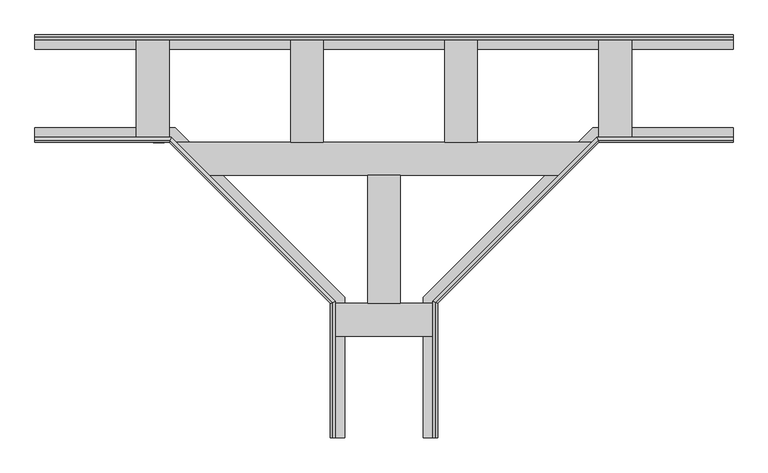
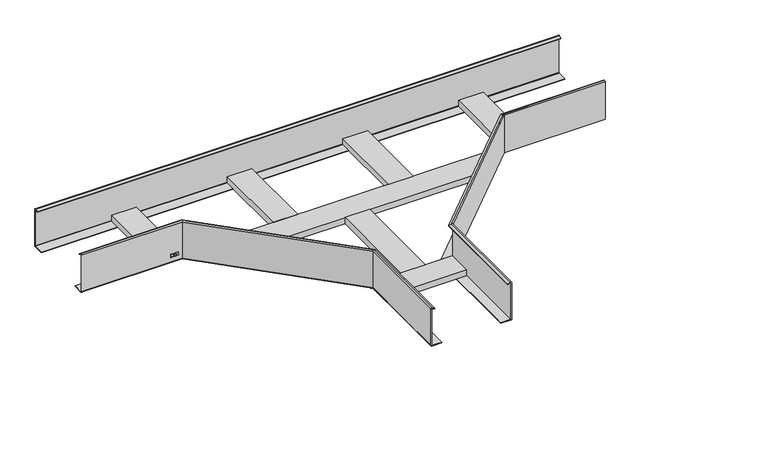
"""IFC4 building model written with IfcOpenShell, lengths in millimetres: cable carrier fitting geometry, КМ Профиль L Т-отвод : Т-отвод."""

from ifc_helpers import new_model, si_unit, point, frame, frame_2d, origin, place, context, project, spatial, polyline, circle_curve, ellipse_curve, trimmed, segment, composite_curve, outline, extrude, source, transform, mapped, element, save
from ifc_brep_helpers import plane_surface, cylinder_surface, revolved_surface, advanced_brep


def cable_carrier_fitting_7de7f101(model_context):
    return source(origin(), model_context, "Body", "SolidModel", [
        extrude(outline(polyline([(-26.986157, -429.2388781), (-34.737421, -429.2388781), (-34.737421, -425.6630512), (-31.5720802, -425.6630512), (-34.737421, -423.9588467), (-34.737421, -420.0604353), (-31.194034, -421.9277444), (-30.5086619, -424.1694955), (-26.986157, -421.703011), (-26.986157, -423.8289757), (-30.564509, -425.7316192), (-26.986157, -425.7316192), (-26.986157, -429.2388781)])), frame((0.0, -100.8, 0.0), z_axis=(0.0, 1.0, 0.0), x_axis=(0.0, 0.0, 1.0)), (0.0, 0.0, 1.0), 0.8),
        extrude(outline(polyline([(-34.737421, -417.9962759), (-30.0696135, -417.6126012), (-34.7434681, -416.2045824), (-34.7434681, -414.7300717), (-30.0541919, -413.2500032), (-34.7429915, -412.7725105), (-34.7429915, -408.8700699), (-26.9623682, -410.0615674), (-26.9623682, -413.2555223), (-30.0390232, -414.2768297), (-26.9647569, -415.0433304), (-26.9647569, -418.0740589), (-34.737421, -419.8943395), (-34.737421, -417.9962759)])), frame((0.0, -100.8, 0.0), z_axis=(0.0, 1.0, 0.0), x_axis=(0.0, 0.0, 1.0)), (0.0, 0.0, 1.0), 0.8),
        extrude(outline(polyline([(-400.0, -97.0), (-461.0, -97.0), (-461.0, 97.0), (-400.0, 97.0), (-400.0, -97.0)])), frame((0.0, 0.0, -48.5), z_axis=(0.0, 0.0, 1.0), x_axis=(1.0, 0.0, 0.0)), (0.0, 0.0, 1.0), 16.0),
        extrude(outline(polyline([(461.0, -97.0), (400.0, -97.0), (400.0, 97.0), (461.0, 97.0), (461.0, -97.0)])), frame((0.0, 0.0, -48.5), z_axis=(0.0, 0.0, 1.0), x_axis=(1.0, 0.0, 0.0)), (0.0, 0.0, 1.0), 16.0),
        extrude(outline(polyline([(-113.0, 97.0), (-113.0, -100.0), (-174.0, -100.0), (-174.0, 97.0), (-113.0, 97.0)])), frame((0.0, 0.0, -48.5), z_axis=(0.0, 0.0, 1.0), x_axis=(1.0, 0.0, 0.0)), (0.0, 0.0, 1.0), 16.0),
        extrude(outline(polyline([(113.0, -100.0), (113.0, 97.0), (174.0, 97.0), (174.0, -100.0), (113.0, -100.0)])), frame((0.0, 0.0, -48.5), z_axis=(0.0, 0.0, 1.0), x_axis=(1.0, 0.0, 0.0)), (0.0, 0.0, 1.0), 16.0),
        extrude(outline(polyline([(30.5, -161.0), (30.5, -400.0), (-30.5, -400.0), (-30.5, -161.0), (30.5, -161.0)])), frame((0.0, 0.0, -48.5), z_axis=(0.0, 0.0, 1.0), x_axis=(1.0, 0.0, 0.0)), (0.0, 0.0, 1.0), 16.0),
        extrude(outline(polyline([(-97.0, -400.0), (97.0, -400.0), (97.0, -461.0), (-97.0, -461.0), (-97.0, -400.0)])), frame((0.0, 0.0, -48.5), z_axis=(0.0, 0.0, 1.0), x_axis=(1.0, 0.0, 0.0)), (0.0, 0.0, 1.0), 16.0),
        extrude(outline(polyline([(331.9289322, -161.0), (-331.9289322, -161.0), (-392.9289322, -100.0), (392.9289322, -100.0), (331.9289322, -161.0)])), frame((0.0, 0.0, -48.5), z_axis=(0.0, 0.0, 1.0), x_axis=(1.0, 0.0, 0.0)), (0.0, 0.0, 1.0), 16.0),
        extrude(outline(composite_curve([segment(trimmed(circle_curve(frame_2d((97.5, -47.5)), 1.0), [point((97.5, -48.5))], [point((98.5, -47.5))], True, "CARTESIAN"), True, "CONTINUOUS"), segment(polyline([(98.5, -47.5), (98.5, 47.3007162)]), True, "CONTINUOUS"), segment(trimmed(circle_curve(frame_2d((97.5, 47.3007162)), 1.0), [point((98.5, 47.3007162))], [point((97.0305284, 48.1836637))], True, "CARTESIAN"), True, "CONTINUOUS"), segment(polyline([(97.0305284, 48.1836637), (91.0, 44.9771749), (91.0, 46.67603), (96.7671626, 49.7424847)]), True, "CONTINUOUS"), segment(trimmed(circle_curve(frame_2d((97.8, 47.8)), 2.2), [point((96.7671626, 49.7424847))], [point((100.0, 47.8))], False, "CARTESIAN"), True, "CONTINUOUS"), segment(polyline([(100.0, 47.8), (100.0, -47.8)]), True, "CONTINUOUS"), segment(trimmed(circle_curve(frame_2d((97.8, -47.8)), 2.2), [point((100.0, -47.8))], [point((97.8, -50.0))], False, "CARTESIAN"), True, "CONTINUOUS"), segment(polyline([(97.8, -50.0), (73.0, -50.0), (73.0, -48.5), (97.5, -48.5)]), True, "CONTINUOUS")], self_intersect=False)), frame((-650.0, 0.0, 0.0), z_axis=(1.0, 0.0, 0.0), x_axis=(0.0, 1.0, 0.0)), (0.0, 0.0, 1.0), 1300.0),
        advanced_brep(
        [(73.0, -650.0, -50.0), (100.0, -650.0, -50.0), (100.0, -650.0, 47.8), (96.7671626, -650.0, 49.7424847), (91.0, -650.0, 46.67603), (91.0, -650.0, 44.9771749), (97.0305284, -650.0, 48.1836637), (98.5, -650.0, 47.3007162), (98.5, -650.0, -48.5), (73.0, -650.0, -48.5), (73.0, -388.8162338, -50.0), (388.8162338, -73.0, -50.0), (650.0, -73.0, -50.0), (650.0, -100.0, -50.0), (400.0, -100.0, -50.0), (100.0, -400.0, -50.0), (100.0, -400.0, 47.8), (96.7671626, -398.6609149, 49.7424847), (91.0, -396.2720779, 46.67603), (91.0, -396.2720779, 44.9771749), (97.0305284, -398.7700046, 48.1836637), (98.5, -399.3786797, 47.3007162), (98.5, -399.3786797, -48.5), (399.3786797, -98.5, -48.5), (650.0, -98.5, -48.5), (650.0, -73.0, -48.5), (388.8162338, -73.0, -48.5), (73.0, -388.8162338, -48.5), (400.0, -100.0, 47.8), (398.6609149, -96.7671626, 49.7424847), (396.2720779, -91.0, 46.67603), (396.2720779, -91.0, 44.9771749), (398.7700046, -97.0305284, 48.1836637), (399.3786797, -98.5, 47.3007162), (650.0, -98.5, 47.3007162), (650.0, -97.0305284, 48.1836637), (650.0, -91.0, 44.9771749), (650.0, -91.0, 46.67603), (650.0, -96.7671626, 49.7424847), (650.0, -100.0, 47.8)],
        [
            (0, 1),
            (1, 2),
            (2, 3, circle_curve(frame((97.8, -650.0, 47.8), z_axis=(0.0, -1.0, 0.0), x_axis=(-1.0, 0.0, 0.0)), 2.2)),
            (3, 4),
            (4, 5),
            (5, 6),
            (6, 7, circle_curve(frame((97.5, -650.0, 47.3007162), z_axis=(0.0, 1.0, 0.0), x_axis=(-1.0, 0.0, 0.0)), 1.0)),
            (7, 8),
            (8, 9),
            (9, 0),
            (0, 10),
            (10, 11),
            (11, 12),
            (12, 13),
            (13, 14),
            (14, 15),
            (15, 1),
            (15, 16),
            (16, 2),
            (16, 17, ellipse_curve(frame((97.8, -399.0887302, 47.8), z_axis=(-0.382683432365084, -0.9238795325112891, 0.0), x_axis=(0.9238795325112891, -0.3826834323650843, 0.0)), 2.3812628, 2.2)),
            (17, 3),
            (17, 18),
            (18, 4),
            (18, 19),
            (19, 5),
            (19, 20),
            (20, 6),
            (20, 21, ellipse_curve(frame((97.5, -398.9644661, 47.3007162), z_axis=(0.382683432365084, 0.9238795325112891, 0.0), x_axis=(-0.9238795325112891, 0.3826834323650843, 0.0)), 1.0823922, 1.0)),
            (21, 7),
            (21, 22),
            (22, 8),
            (22, 23),
            (23, 24),
            (24, 25),
            (25, 26),
            (26, 27),
            (27, 9),
            (27, 10),
            (14, 28),
            (28, 16),
            (28, 29, ellipse_curve(frame((399.0887302, -97.8, 47.8), z_axis=(-0.9238795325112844, -0.38268343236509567, 0.0), x_axis=(0.382683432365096, -0.9238795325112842, 0.0)), 2.3812628, 2.2)),
            (29, 17),
            (29, 30),
            (30, 18),
            (30, 31),
            (31, 19),
            (31, 32),
            (32, 20),
            (32, 33, ellipse_curve(frame((398.9644661, -97.5, 47.3007162), z_axis=(0.9238795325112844, 0.38268343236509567, 0.0), x_axis=(-0.382683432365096, 0.9238795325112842, 0.0)), 1.0823922, 1.0)),
            (33, 21),
            (33, 23),
            (26, 11),
            (12, 25),
            (24, 34),
            (34, 35, circle_curve(frame((650.0, -97.5, 47.3007162), z_axis=(-1.0, 0.0, 0.0), x_axis=(0.0, 1.0, 0.0)), 1.0)),
            (35, 36),
            (36, 37),
            (37, 38),
            (38, 39, circle_curve(frame((650.0, -97.8, 47.8), z_axis=(1.0, 0.0, 0.0), x_axis=(0.0, 1.0, 0.0)), 2.2)),
            (39, 13),
            (39, 28),
            (38, 29),
            (37, 30),
            (36, 31),
            (35, 32),
            (34, 33),
        ],
        [
            plane_surface(frame((100.0, -650.0, 50.0), z_axis=(0.0, -1.0, 0.0), x_axis=(0.0, 0.0, 1.0))),
            plane_surface(frame((73.0, -650.0, -50.0), z_axis=(0.0, 0.0, -1.0), x_axis=(0.0, 1.0, 0.0))),
            plane_surface(frame((100.0, -650.0, -50.0), z_axis=(1.0, 0.0, 0.0), x_axis=(0.0, 1.0, 0.0))),
            cylinder_surface(frame((97.8, -650.0, 47.8), z_axis=(0.0, -1.0, 0.0), x_axis=(-1.0, 0.0, 0.0)), 2.2),
            plane_surface(frame((96.7671626, -650.0, 49.7424847), z_axis=(-0.4694715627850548, 0.0, 0.8829475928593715), x_axis=(0.0, 1.0, 0.0))),
            plane_surface(frame((91.0, -650.0, 46.67603), z_axis=(-1.0, 0.0, 0.0), x_axis=(0.0, 1.0, 0.0))),
            plane_surface(frame((91.0, -650.0, 44.9771749), z_axis=(0.4694715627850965, 0.0, -0.8829475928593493), x_axis=(0.0, 1.0, 0.0))),
            revolved_surface(polyline([(96.5, -398.5502525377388, 47.3007162), (96.5, -650.0, 47.3007162)]), (97.5, -650.0, 47.3007162), (0.0, 1.0, 0.0)),
            plane_surface(frame((98.5, -650.0, 47.3007162), z_axis=(-1.0, 0.0, 0.0), x_axis=(0.0, 1.0, 0.0))),
            plane_surface(frame((98.5, -650.0, -48.5), z_axis=(0.0, 0.0, 1.0), x_axis=(0.0, 1.0, 0.0))),
            plane_surface(frame((73.0, -650.0, -48.5), z_axis=(-1.0, 0.0, 0.0), x_axis=(0.0, 1.0, 0.0))),
            plane_surface(frame((100.0, -400.0, -50.0), z_axis=(0.7071067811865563, -0.7071067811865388, 0.0), x_axis=(0.7071067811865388, 0.7071067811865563, 0.0))),
            cylinder_surface(frame((98.4443651, -398.4443651, 47.8), z_axis=(-0.7071067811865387, -0.7071067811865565, 0.0), x_axis=(-0.7071067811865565, 0.7071067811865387, 0.0)), 2.2),
            plane_surface(frame((96.7671626, -398.6609149, 49.7424847), z_axis=(-0.3319665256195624, 0.3319665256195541, 0.8829475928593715), x_axis=(0.7071067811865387, 0.7071067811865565, 0.0))),
            plane_surface(frame((91.0, -396.2720779, 46.67603), z_axis=(-0.7071067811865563, 0.7071067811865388, 0.0), x_axis=(0.7071067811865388, 0.7071067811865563, 0.0))),
            plane_surface(frame((91.0, -396.2720779, 44.9771749), z_axis=(0.3319665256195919, -0.3319665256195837, -0.8829475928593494), x_axis=(0.7071067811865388, 0.7071067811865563, 0.0))),
            revolved_surface(polyline([(398.550252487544, -96.49999995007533, 47.3007162), (96.49999995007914, -398.55025248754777, 47.3007162)]), (98.232233, -398.232233, 47.3007162), (0.7071067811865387, 0.7071067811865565, 0.0)),
            plane_surface(frame((98.5, -399.3786797, 47.3007162), z_axis=(-0.7071067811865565, 0.7071067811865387, 0.0), x_axis=(0.7071067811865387, 0.7071067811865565, 0.0))),
            plane_surface(frame((73.0, -388.8162338, -48.5), z_axis=(-0.7071067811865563, 0.7071067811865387, 0.0), x_axis=(0.7071067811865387, 0.7071067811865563, 0.0))),
            plane_surface(frame((650.0, -100.0, 50.0), z_axis=(1.0, 0.0, 0.0), x_axis=(0.0, 0.0, 1.0))),
            plane_surface(frame((400.0, -100.0, -50.0), z_axis=(0.0, -1.0, 0.0), x_axis=(1.0, 0.0, 0.0))),
            cylinder_surface(frame((400.0, -97.8, 47.8), z_axis=(-1.0, 0.0, 0.0), x_axis=(0.0, 1.0, 0.0)), 2.2),
            plane_surface(frame((398.6609149, -96.7671626, 49.7424847), z_axis=(0.0, 0.4694715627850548, 0.8829475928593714), x_axis=(1.0, 0.0, 0.0))),
            plane_surface(frame((396.2720779, -91.0, 46.67603), z_axis=(0.0, 1.0, 0.0), x_axis=(1.0, 0.0, 0.0))),
            plane_surface(frame((396.2720779, -91.0, 44.9771749), z_axis=(0.0, -0.4694715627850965, -0.8829475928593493), x_axis=(1.0, 0.0, 0.0))),
            revolved_surface(polyline([(650.0, -96.5, 47.3007162), (398.5502525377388, -96.5, 47.3007162)]), (400.0, -97.5, 47.3007162), (1.0, 0.0, 0.0)),
            plane_surface(frame((399.3786797, -98.5, 47.3007162), z_axis=(0.0, 1.0, 0.0), x_axis=(1.0, 0.0, 0.0))),
            plane_surface(frame((388.8162338, -73.0, -48.5), z_axis=(0.0, 1.0, 0.0), x_axis=(1.0, 0.0, 0.0))),
        ],
        [
            (0, [[1, 2, 3, 4, 5, 6, 7, 8, 9, 10]]),
            (1, [[-1, 11, 12, 13, 14, 15, 16, 17]]),
            (2, [[-2, -17, 18, 19]]),
            (3, [[-3, -19, 20, 21]]),
            (4, [[-4, -21, 22, 23]]),
            (5, [[-5, -23, 24, 25]]),
            (6, [[-6, -25, 26, 27]]),
            (7, [[-7, -27, 28, 29]]),
            (8, [[-8, -29, 30, 31]]),
            (9, [[-9, -31, 32, 33, 34, 35, 36, 37]]),
            (10, [[-10, -37, 38, -11]]),
            (11, [[-18, -16, 39, 40]]),
            (12, [[-20, -40, 41, 42]]),
            (13, [[-22, -42, 43, 44]]),
            (14, [[-24, -44, 45, 46]]),
            (15, [[-26, -46, 47, 48]]),
            (16, [[-28, -48, 49, 50]]),
            (17, [[-30, -50, 51, -32]]),
            (18, [[-38, -36, 52, -12]]),
            (19, [[53, -34, 54, 55, 56, 57, 58, 59, 60, -14]]),
            (20, [[-39, -15, -60, 61]]),
            (21, [[-41, -61, -59, 62]]),
            (22, [[-43, -62, -58, 63]]),
            (23, [[-45, -63, -57, 64]]),
            (24, [[-47, -64, -56, 65]]),
            (25, [[-49, -65, -55, 66]]),
            (26, [[-51, -66, -54, -33]]),
            (27, [[-52, -35, -53, -13]]),
        ],
    ),
        advanced_brep(
        [(-650.0, -73.0, -48.5), (-650.0, -73.0, -50.0), (-650.0, -97.8, -50.0), (-650.0, -100.0, -47.8), (-650.0, -100.0, 47.8), (-650.0, -96.7671626, 49.7424847), (-650.0, -91.0, 46.67603), (-650.0, -91.0, 44.9771749), (-650.0, -97.0305284, 48.1836637), (-650.0, -98.5, 47.3007162), (-650.0, -98.5, -47.5), (-650.0, -97.5, -48.5), (-388.8162338, -73.0, -48.5), (-388.8162338, -73.0, -50.0), (-73.0, -388.8162338, -50.0), (-73.0, -650.0, -50.0), (-97.8, -650.0, -50.0), (-97.8, -399.0887302, -50.0), (-399.0887302, -97.8, -50.0), (-400.0, -100.0, -47.8), (-400.0, -100.0, 47.8), (-399.3786797, -98.5, 47.3007162), (-399.3786797, -98.5, -47.5), (-398.9644661, -97.5, -48.5), (-97.5, -398.9644661, -48.5), (-97.5, -650.0, -48.5), (-73.0, -650.0, -48.5), (-73.0, -388.8162338, -48.5), (-100.0, -400.0, -47.8), (-100.0, -400.0, 47.8), (-98.5, -399.3786797, 47.3007162), (-98.5, -399.3786797, -47.5), (-98.5, -650.0, -47.5), (-98.5, -650.0, 47.3007162), (-97.0305284, -650.0, 48.1836637), (-91.0, -650.0, 44.9771749), (-91.0, -650.0, 46.67603), (-96.7671626, -650.0, 49.7424847), (-100.0, -650.0, 47.8), (-100.0, -650.0, -47.8), (-398.6609149, -96.7671626, 49.7424847), (-396.2720779, -91.0, 46.67603), (-396.2720779, -91.0, 44.9771749), (-398.7700046, -97.0305284, 48.1836637), (-96.7671626, -398.6609149, 49.7424847), (-91.0, -396.2720779, 46.67603), (-91.0, -396.2720779, 44.9771749), (-97.0305284, -398.7700046, 48.1836637)],
        [
            (0, 1),
            (1, 2),
            (2, 3, circle_curve(frame((-650.0, -97.8, -47.8), z_axis=(-1.0, 0.0, 0.0), x_axis=(0.0, 1.0, 0.0)), 2.2)),
            (3, 4),
            (4, 5, circle_curve(frame((-650.0, -97.8, 47.8), z_axis=(-1.0, 0.0, 0.0), x_axis=(0.0, 1.0, 0.0)), 2.2)),
            (5, 6),
            (6, 7),
            (7, 8),
            (8, 9, circle_curve(frame((-650.0, -97.5, 47.3007162), z_axis=(1.0, 0.0, 0.0), x_axis=(0.0, 1.0, 0.0)), 1.0)),
            (9, 10),
            (10, 11, circle_curve(frame((-650.0, -97.5, -47.5), z_axis=(1.0, 0.0, 0.0), x_axis=(0.0, 1.0, 0.0)), 1.0)),
            (11, 0),
            (0, 12),
            (12, 13),
            (13, 1),
            (13, 14),
            (14, 15),
            (15, 16),
            (16, 17),
            (17, 18),
            (18, 2),
            (18, 19, ellipse_curve(frame((-399.0887302, -97.8, -47.8), z_axis=(-0.9238795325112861, 0.38268343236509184, 0.0), x_axis=(-0.3826834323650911, -0.9238795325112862, 0.0)), 2.3812628, 2.2)),
            (19, 3),
            (19, 20),
            (20, 4),
            (9, 21),
            (21, 22),
            (22, 10),
            (22, 23, ellipse_curve(frame((-398.9644661, -97.5, -47.5), z_axis=(0.9238795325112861, -0.38268343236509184, 0.0), x_axis=(0.3826834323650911, 0.9238795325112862, 0.0)), 1.0823922, 1.0)),
            (23, 11),
            (23, 24),
            (24, 25),
            (25, 26),
            (26, 27),
            (27, 12),
            (27, 14),
            (17, 28, ellipse_curve(frame((-97.8, -399.0887302, -47.8), z_axis=(-0.3826834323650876, 0.9238795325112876, 0.0), x_axis=(-0.9238795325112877, -0.3826834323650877, 0.0)), 2.3812628, 2.2)),
            (28, 19),
            (28, 29),
            (29, 20),
            (21, 30),
            (30, 31),
            (31, 22),
            (31, 24, ellipse_curve(frame((-97.5, -398.9644661, -47.5), z_axis=(0.3826834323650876, -0.9238795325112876, 0.0), x_axis=(0.9238795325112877, 0.3826834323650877, 0.0)), 1.0823922, 1.0)),
            (25, 32, circle_curve(frame((-97.5, -650.0, -47.5), z_axis=(0.0, 1.0, 0.0), x_axis=(1.0, 0.0, 0.0)), 1.0)),
            (32, 33),
            (33, 34, circle_curve(frame((-97.5, -650.0, 47.3007162), z_axis=(0.0, 1.0, 0.0), x_axis=(1.0, 0.0, 0.0)), 1.0)),
            (34, 35),
            (35, 36),
            (36, 37),
            (37, 38, circle_curve(frame((-97.8, -650.0, 47.8), z_axis=(0.0, -1.0, 0.0), x_axis=(1.0, 0.0, 0.0)), 2.2)),
            (38, 39),
            (39, 16, circle_curve(frame((-97.8, -650.0, -47.8), z_axis=(0.0, -1.0, 0.0), x_axis=(1.0, 0.0, 0.0)), 2.2)),
            (15, 26),
            (39, 28),
            (38, 29),
            (30, 33),
            (32, 31),
            (20, 40, ellipse_curve(frame((-399.0887302, -97.8, 47.8), z_axis=(-0.9238795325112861, 0.38268343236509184, 0.0), x_axis=(-0.3826834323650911, -0.9238795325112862, 0.0)), 2.3812628, 2.2)),
            (40, 5),
            (40, 41),
            (41, 6),
            (41, 42),
            (42, 7),
            (42, 43),
            (43, 8),
            (43, 21, ellipse_curve(frame((-398.9644661, -97.5, 47.3007162), z_axis=(0.9238795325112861, -0.38268343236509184, 0.0), x_axis=(0.3826834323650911, 0.9238795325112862, 0.0)), 1.0823922, 1.0)),
            (29, 44, ellipse_curve(frame((-97.8, -399.0887302, 47.8), z_axis=(-0.3826834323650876, 0.9238795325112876, 0.0), x_axis=(-0.9238795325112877, -0.3826834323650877, 0.0)), 2.3812628, 2.2)),
            (44, 40),
            (44, 45),
            (45, 41),
            (45, 46),
            (46, 42),
            (46, 47),
            (47, 43),
            (47, 30, ellipse_curve(frame((-97.5, -398.9644661, 47.3007162), z_axis=(0.3826834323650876, -0.9238795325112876, 0.0), x_axis=(0.9238795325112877, 0.3826834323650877, 0.0)), 1.0823922, 1.0)),
            (37, 44),
            (36, 45),
            (35, 46),
            (34, 47),
        ],
        [
            plane_surface(frame((-650.0, -100.0, 50.0), z_axis=(-1.0, 0.0, 0.0), x_axis=(0.0, 0.0, 1.0))),
            plane_surface(frame((-650.0, -73.0, -48.5), z_axis=(0.0, 1.0, 0.0), x_axis=(1.0, 0.0, 0.0))),
            plane_surface(frame((-650.0, -73.0, -50.0), z_axis=(0.0, 0.0, -1.0), x_axis=(1.0, 0.0, 0.0))),
            cylinder_surface(frame((-650.0, -97.8, -47.8), z_axis=(-1.0, 0.0, 0.0), x_axis=(0.0, 1.0, 0.0)), 2.2),
            plane_surface(frame((-650.0, -100.0, -47.8), z_axis=(0.0, -1.0, 0.0), x_axis=(1.0, 0.0, 0.0))),
            plane_surface(frame((-650.0, -98.5, 47.3007162), z_axis=(0.0, 1.0, 0.0), x_axis=(1.0, 0.0, 0.0))),
            revolved_surface(polyline([(-398.55025253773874, -96.5, -47.5), (-650.0, -96.5, -47.5)]), (-650.0, -97.5, -47.5), (1.0, 0.0, 0.0)),
            plane_surface(frame((-650.0, -97.5, -48.5), z_axis=(0.0, 0.0, 1.0), x_axis=(1.0, 0.0, 0.0))),
            plane_surface(frame((-388.8162338, -73.0, -48.5), z_axis=(0.7071067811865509, 0.7071067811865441, 0.0), x_axis=(0.7071067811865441, -0.7071067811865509, 0.0))),
            cylinder_surface(frame((-398.4443651, -98.4443651, -47.8), z_axis=(-0.7071067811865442, 0.7071067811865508, 0.0), x_axis=(0.7071067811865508, 0.7071067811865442, 0.0)), 2.2),
            plane_surface(frame((-400.0, -100.0, -47.8), z_axis=(-0.7071067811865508, -0.7071067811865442, 0.0), x_axis=(0.7071067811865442, -0.7071067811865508, 0.0))),
            plane_surface(frame((-399.3786797, -98.5, 47.3007162), z_axis=(0.7071067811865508, 0.7071067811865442, 0.0), x_axis=(0.7071067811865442, -0.7071067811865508, 0.0))),
            revolved_surface(polyline([(-96.49999995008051, -398.5502524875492, -47.5), (-398.55025248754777, -96.49999995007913, -47.5)]), (-398.232233, -98.232233, -47.5), (0.7071067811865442, -0.7071067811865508, 0.0)),
            plane_surface(frame((-100.0, -650.0, 50.0), z_axis=(0.0, -1.0, 0.0), x_axis=(0.0, 0.0, 1.0))),
            plane_surface(frame((-73.0, -388.8162338, -48.5), z_axis=(1.0, 0.0, 0.0), x_axis=(0.0, -1.0, 0.0))),
            cylinder_surface(frame((-97.8, -400.0, -47.8), z_axis=(0.0, 1.0, 0.0), x_axis=(1.0, 0.0, 0.0)), 2.2),
            plane_surface(frame((-100.0, -400.0, -47.8), z_axis=(-1.0, 0.0, 0.0), x_axis=(0.0, -1.0, 0.0))),
            plane_surface(frame((-98.5, -399.3786797, 47.3007162), z_axis=(1.0, 0.0, 0.0), x_axis=(0.0, -1.0, 0.0))),
            revolved_surface(polyline([(-96.5, -650.0, -47.5), (-96.5, -398.5502525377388, -47.5)]), (-97.5, -400.0, -47.5), (0.0, -1.0, 0.0)),
            cylinder_surface(frame((-650.0, -97.8, 47.8), z_axis=(-1.0, 0.0, 0.0), x_axis=(0.0, 1.0, 0.0)), 2.2),
            plane_surface(frame((-650.0, -96.7671626, 49.7424847), z_axis=(0.0, 0.4694715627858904, 0.8829475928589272), x_axis=(1.0, 0.0, 0.0))),
            plane_surface(frame((-650.0, -91.0, 46.67603), z_axis=(0.0, 1.0, 0.0), x_axis=(1.0, 0.0, 0.0))),
            plane_surface(frame((-650.0, -91.0, 44.9771749), z_axis=(0.0, -0.4694715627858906, -0.8829475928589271), x_axis=(1.0, 0.0, 0.0))),
            revolved_surface(polyline([(-398.55025253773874, -96.5, 47.3007162), (-650.0, -96.5, 47.3007162)]), (-650.0, -97.5, 47.3007162), (1.0, 0.0, 0.0)),
            cylinder_surface(frame((-398.4443651, -98.4443651, 47.8), z_axis=(-0.7071067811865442, 0.7071067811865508, 0.0), x_axis=(0.7071067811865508, 0.7071067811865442, 0.0)), 2.2),
            plane_surface(frame((-398.6609149, -96.7671626, 49.7424847), z_axis=(0.33196652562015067, 0.33196652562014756, 0.8829475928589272), x_axis=(0.7071067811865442, -0.7071067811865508, 0.0))),
            plane_surface(frame((-396.2720779, -91.0, 46.67603), z_axis=(0.7071067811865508, 0.7071067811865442, 0.0), x_axis=(0.7071067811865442, -0.7071067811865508, 0.0))),
            plane_surface(frame((-396.2720779, -91.0, 44.9771749), z_axis=(-0.3319665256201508, -0.3319665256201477, -0.8829475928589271), x_axis=(0.7071067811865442, -0.7071067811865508, 0.0))),
            revolved_surface(polyline([(-96.49999995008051, -398.5502524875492, 47.3007162), (-398.55025248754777, -96.49999995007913, 47.3007162)]), (-398.232233, -98.232233, 47.3007162), (0.7071067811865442, -0.7071067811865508, 0.0)),
            cylinder_surface(frame((-97.8, -400.0, 47.8), z_axis=(0.0, 1.0, 0.0), x_axis=(1.0, 0.0, 0.0)), 2.2),
            plane_surface(frame((-96.7671626, -398.6609149, 49.7424847), z_axis=(0.4694715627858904, 0.0, 0.8829475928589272), x_axis=(0.0, -1.0, 0.0))),
            plane_surface(frame((-91.0, -396.2720779, 46.67603), z_axis=(1.0, 0.0, 0.0), x_axis=(0.0, -1.0, 0.0))),
            plane_surface(frame((-91.0, -396.2720779, 44.9771749), z_axis=(-0.4694715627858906, 0.0, -0.8829475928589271), x_axis=(0.0, -1.0, 0.0))),
            revolved_surface(polyline([(-96.5, -650.0, 47.3007162), (-96.5, -398.5502525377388, 47.3007162)]), (-97.5, -400.0, 47.3007162), (0.0, -1.0, 0.0)),
        ],
        [
            (0, [[1, 2, 3, 4, 5, 6, 7, 8, 9, 10, 11, 12]]),
            (1, [[-1, 13, 14, 15]]),
            (2, [[-2, -15, 16, 17, 18, 19, 20, 21]]),
            (3, [[-3, -21, 22, 23]]),
            (4, [[-4, -23, 24, 25]]),
            (5, [[-10, 26, 27, 28]]),
            (6, [[-11, -28, 29, 30]]),
            (7, [[-12, -30, 31, 32, 33, 34, 35, -13]]),
            (8, [[-14, -35, 36, -16]]),
            (9, [[-22, -20, 37, 38]]),
            (10, [[-24, -38, 39, 40]]),
            (11, [[-27, 41, 42, 43]]),
            (12, [[-29, -43, 44, -31]]),
            (13, [[-33, 45, 46, 47, 48, 49, 50, 51, 52, 53, -18, 54]]),
            (14, [[-36, -34, -54, -17]]),
            (15, [[-37, -19, -53, 55]]),
            (16, [[-39, -55, -52, 56]]),
            (17, [[-42, 57, -46, 58]]),
            (18, [[-44, -58, -45, -32]]),
            (19, [[-5, -25, 59, 60]]),
            (20, [[-6, -60, 61, 62]]),
            (21, [[-7, -62, 63, 64]]),
            (22, [[-8, -64, 65, 66]]),
            (23, [[-9, -66, 67, -26]]),
            (24, [[-59, -40, 68, 69]]),
            (25, [[-61, -69, 70, 71]]),
            (26, [[-63, -71, 72, 73]]),
            (27, [[-65, -73, 74, 75]]),
            (28, [[-67, -75, 76, -41]]),
            (29, [[-68, -56, -51, 77]]),
            (30, [[-70, -77, -50, 78]]),
            (31, [[-72, -78, -49, 79]]),
            (32, [[-74, -79, -48, 80]]),
            (33, [[-76, -80, -47, -57]]),
        ],
    ),
    ])


if __name__ == "__main__":
    model = new_model("IFC4")
    model_context = context("Model", 3, world=origin())
    ifc_project = project(units=[si_unit("LENGTHUNIT", "METRE", prefix="MILLI")], contexts=[model_context])
    site = spatial("IfcSite", under=ifc_project)
    building = spatial("IfcBuilding", under=site)
    placement = place(None, origin())
    cable_carrier_fitting_shape = cable_carrier_fitting_7de7f101(model_context)
    element("IfcCableCarrierFitting", 1, ObjectType="КМ Профиль L Т-отвод : Т-отвод", at=placement, inside=building, context=model_context, shape_type="MappedRepresentation", body=[
        mapped(cable_carrier_fitting_shape, transform((0.0, 0.0, 0.0), x_axis=(1.0, 0.0, 0.0), y_axis=(0.0, 1.0, 0.0), z_axis=(0.0, 0.0, 1.0))),
    ])
    save(model, "model.ifc")
